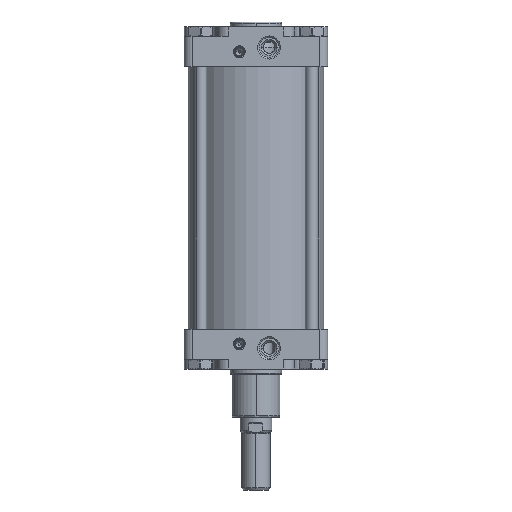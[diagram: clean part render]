
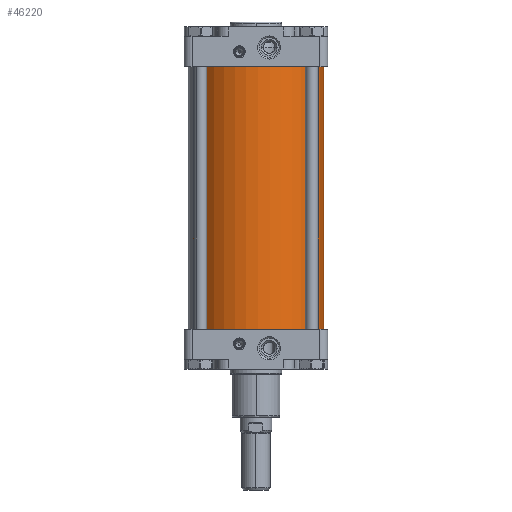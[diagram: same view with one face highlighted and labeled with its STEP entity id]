
A CAD part, front view. The second image highlights one B-rep face of the part: STEP entity #46220.
In plain terms, the highlighted cylindrical face has radius 85 mm (diameter 170 mm), a partial arc.
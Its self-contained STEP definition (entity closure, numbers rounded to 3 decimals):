
#613 = CARTESIAN_POINT ( 'NONE',  ( -85., 0., 330. ) ) ;
#667 = DIRECTION ( 'NONE',  ( 0., 0., -1. ) ) ;
#3005 = AXIS2_PLACEMENT_3D ( 'NONE', #28160, #28114, #28108 ) ;
#5827 = EDGE_CURVE ( 'NONE', #29489, #37745, #11438, .T. ) ;
#8406 = LINE ( 'NONE', #34561, #19080 ) ;
#11438 = CIRCLE ( 'NONE', #26372, 85. ) ;
#11865 = DIRECTION ( 'NONE',  ( -1., 0., 0. ) ) ;
#11912 = DIRECTION ( 'NONE',  ( 0., 0., -1. ) ) ;
#11923 = CARTESIAN_POINT ( 'NONE',  ( 0., 0., 330. ) ) ;
#13320 = CARTESIAN_POINT ( 'NONE',  ( -85., 0., 0. ) ) ;
#14174 = LINE ( 'NONE', #613, #33400 ) ;
#14624 = ORIENTED_EDGE ( 'NONE', *, *, #5827, .T. ) ;
#15697 = CIRCLE ( 'NONE', #3005, 85. ) ;
#15985 = FACE_OUTER_BOUND ( 'NONE', #28097, .T. ) ;
#16876 = DIRECTION ( 'NONE',  ( -1., 0., 0. ) ) ;
#19080 = VECTOR ( 'NONE', #34549, 1000. ) ;
#20541 = VERTEX_POINT ( 'NONE', #13320 ) ;
#21649 = ORIENTED_EDGE ( 'NONE', *, *, #41452, .T. ) ;
#21828 = VERTEX_POINT ( 'NONE', #31378 ) ;
#22010 = CARTESIAN_POINT ( 'NONE',  ( -85., 0., 330. ) ) ;
#24599 = ORIENTED_EDGE ( 'NONE', *, *, #41332, .F. ) ;
#26372 = AXIS2_PLACEMENT_3D ( 'NONE', #11923, #11912, #11865 ) ;
#28097 = EDGE_LOOP ( 'NONE', ( #24599, #14624, #32816, #21649 ) ) ;
#28108 = DIRECTION ( 'NONE',  ( -1., 0., 0. ) ) ;
#28114 = DIRECTION ( 'NONE',  ( 0., 0., 1. ) ) ;
#28160 = CARTESIAN_POINT ( 'NONE',  ( 0., 0., 0. ) ) ;
#29157 = AXIS2_PLACEMENT_3D ( 'NONE', #38436, #41869, #16876 ) ;
#29489 = VERTEX_POINT ( 'NONE', #33007 ) ;
#31378 = CARTESIAN_POINT ( 'NONE',  ( 85., 0., 0. ) ) ;
#32816 = ORIENTED_EDGE ( 'NONE', *, *, #36845, .T. ) ;
#33007 = CARTESIAN_POINT ( 'NONE',  ( 85., 0., 330. ) ) ;
#33400 = VECTOR ( 'NONE', #667, 1000. ) ;
#34549 = DIRECTION ( 'NONE',  ( 0., 0., -1. ) ) ;
#34561 = CARTESIAN_POINT ( 'NONE',  ( 85., 0., 330. ) ) ;
#36845 = EDGE_CURVE ( 'NONE', #37745, #20541, #14174, .T. ) ;
#37745 = VERTEX_POINT ( 'NONE', #22010 ) ;
#38436 = CARTESIAN_POINT ( 'NONE',  ( 0., 0., 330. ) ) ;
#41332 = EDGE_CURVE ( 'NONE', #29489, #21828, #8406, .T. ) ;
#41452 = EDGE_CURVE ( 'NONE', #20541, #21828, #15697, .T. ) ;
#41869 = DIRECTION ( 'NONE',  ( 0., 0., -1. ) ) ;
#43422 = CYLINDRICAL_SURFACE ( 'NONE', #29157, 85. ) ;
#46220 = ADVANCED_FACE ( 'NONE', ( #15985 ), #43422, .T. ) ;
